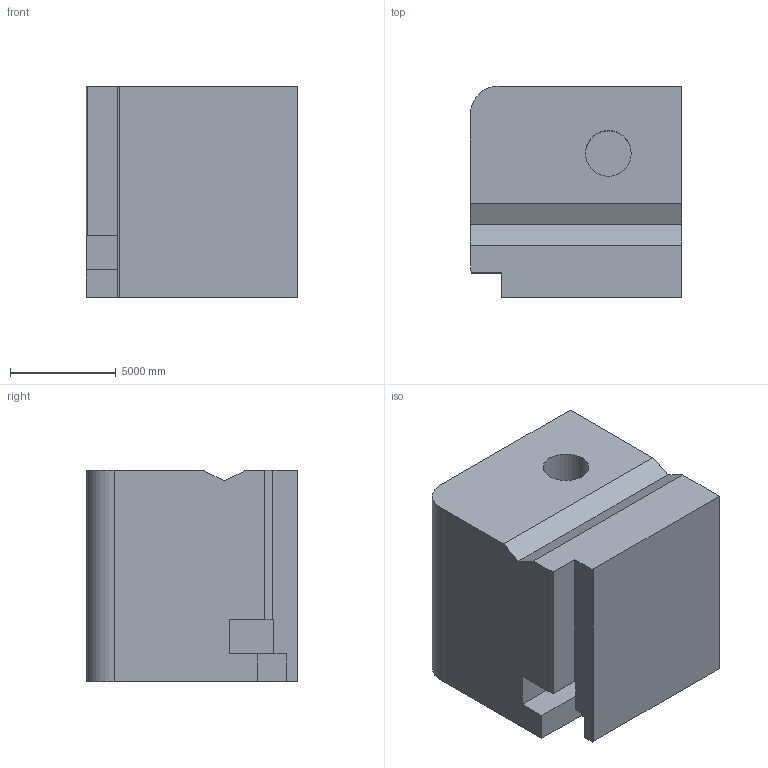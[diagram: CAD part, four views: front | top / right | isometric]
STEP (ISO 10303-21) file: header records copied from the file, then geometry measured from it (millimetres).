
FILE_DESCRIPTION (( 'STEP AP203' ), '1' );
FILE_NAME ('822.STEP', '2022-07-29T13:28:22', ( 'user' ), ( '' ), 'SwSTEP 2.0', 'SolidWorks 2021', '' );
FILE_SCHEMA (( 'CONFIG_CONTROL_DESIGN' ));
Length unit declared in the file: centimetre
Products named in the file (1): 822
Bounding box: 10000 x 10000 x 10000 mm (x, y, z)
Volume: 893665256595.4 mm3; surface area: 746222958.1 mm2
Topology: 1 solids, 1 shells, 37 faces, 98 edges, 65 vertices
Faces by surface type: plane 26, cylinder 11
Entity records: 1458 total; most frequent: CARTESIAN_POINT 436, ORIENTED_EDGE 196, DIRECTION 194, EDGE_CURVE 98, LINE 74, VECTOR 74, VERTEX_POINT 65, AXIS2_PLACEMENT_3D 60
